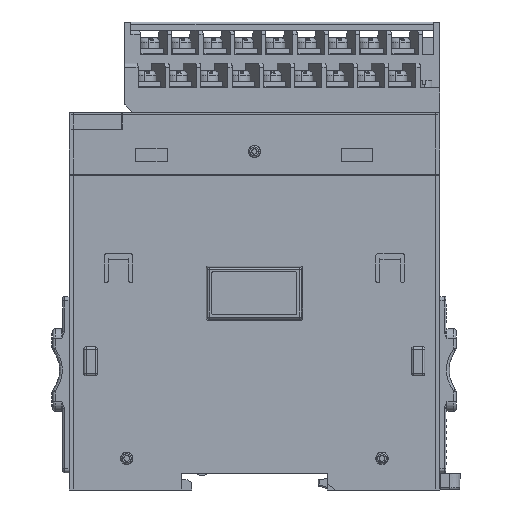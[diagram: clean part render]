
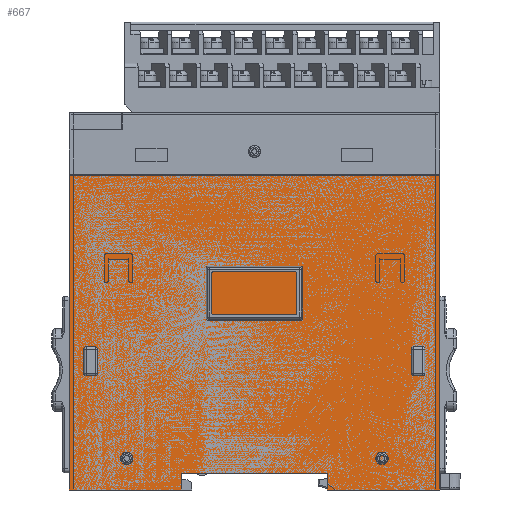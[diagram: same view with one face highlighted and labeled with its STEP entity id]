
A CAD part, left-side view. The second image highlights one B-rep face of the part: STEP entity #667.
In plain terms, the highlighted planar face has unit normal (-1, 0, 0).
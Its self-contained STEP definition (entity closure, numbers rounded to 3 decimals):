
#393=DIRECTION('',(0.,-1.,0.));
#394=VECTOR('',#393,27.25);
#395=CARTESIAN_POINT('',(-16.,-17.75,-91.7));
#396=LINE('',#395,#394);
#421=DIRECTION('',(0.,-1.,0.));
#422=VECTOR('',#421,27.25);
#423=CARTESIAN_POINT('',(-16.,45.,-91.7));
#424=LINE('',#423,#422);
#442=DIRECTION('',(0.,0.,-1.));
#443=VECTOR('',#442,76.4);
#444=CARTESIAN_POINT('',(-16.,-45.,-15.3));
#445=LINE('',#444,#443);
#456=DIRECTION('',(0.,-1.,0.));
#457=VECTOR('',#456,90.);
#458=CARTESIAN_POINT('',(-16.,45.,-15.3));
#459=LINE('',#458,#457);
#463=DIRECTION('',(0.,0.,1.));
#464=VECTOR('',#463,4.);
#465=CARTESIAN_POINT('',(-16.,-17.75,-91.7));
#466=LINE('',#465,#464);
#470=DIRECTION('',(0.,1.,0.));
#471=VECTOR('',#470,35.5);
#472=CARTESIAN_POINT('',(-16.,-17.75,-87.7));
#473=LINE('',#472,#471);
#477=DIRECTION('',(0.,0.,1.));
#478=VECTOR('',#477,4.);
#479=CARTESIAN_POINT('',(-16.,17.75,-91.7));
#480=LINE('',#479,#478);
#484=DIRECTION('',(0.,0.,-1.));
#485=VECTOR('',#484,76.4);
#486=CARTESIAN_POINT('',(-16.,45.,-15.3));
#487=LINE('',#486,#485);
#547=CARTESIAN_POINT('',(-16.,-17.75,-87.7));
#548=CARTESIAN_POINT('',(-16.,17.75,-87.7));
#549=VERTEX_POINT('',#547);
#550=VERTEX_POINT('',#548);
#551=CARTESIAN_POINT('',(-16.,-17.75,-91.7));
#552=VERTEX_POINT('',#551);
#553=CARTESIAN_POINT('',(-16.,17.75,-91.7));
#554=VERTEX_POINT('',#553);
#555=CARTESIAN_POINT('',(-16.,45.,-15.3));
#556=CARTESIAN_POINT('',(-16.,-45.,-15.3));
#557=VERTEX_POINT('',#555);
#558=VERTEX_POINT('',#556);
#575=CARTESIAN_POINT('',(-16.,45.,-91.7));
#576=VERTEX_POINT('',#575);
#577=CARTESIAN_POINT('',(-16.,-45.,-91.7));
#578=VERTEX_POINT('',#577);
#647=CARTESIAN_POINT('',(-16.,45.,0.));
#648=DIRECTION('',(-1.,0.,0.));
#649=DIRECTION('',(0.,-1.,0.));
#650=AXIS2_PLACEMENT_3D('',#647,#648,#649);
#651=PLANE('',#650);
#653=ORIENTED_EDGE('',*,*,#652,.T.);
#654=ORIENTED_EDGE('',*,*,#640,.T.);
#655=ORIENTED_EDGE('',*,*,#588,.F.);
#657=ORIENTED_EDGE('',*,*,#656,.T.);
#659=ORIENTED_EDGE('',*,*,#658,.T.);
#661=ORIENTED_EDGE('',*,*,#660,.F.);
#662=ORIENTED_EDGE('',*,*,#604,.F.);
#664=ORIENTED_EDGE('',*,*,#663,.F.);
#665=EDGE_LOOP('',(#653,#654,#655,#657,#659,#661,#662,#664));
#666=FACE_OUTER_BOUND('',#665,.F.);
#588=EDGE_CURVE('',#552,#578,#396,.T.);
#604=EDGE_CURVE('',#576,#554,#424,.T.);
#640=EDGE_CURVE('',#558,#578,#445,.T.);
#652=EDGE_CURVE('',#557,#558,#459,.T.);
#656=EDGE_CURVE('',#552,#549,#466,.T.);
#658=EDGE_CURVE('',#549,#550,#473,.T.);
#660=EDGE_CURVE('',#554,#550,#480,.T.);
#663=EDGE_CURVE('',#557,#576,#487,.T.);
#667=ADVANCED_FACE('',(#666),#651,.T.);
